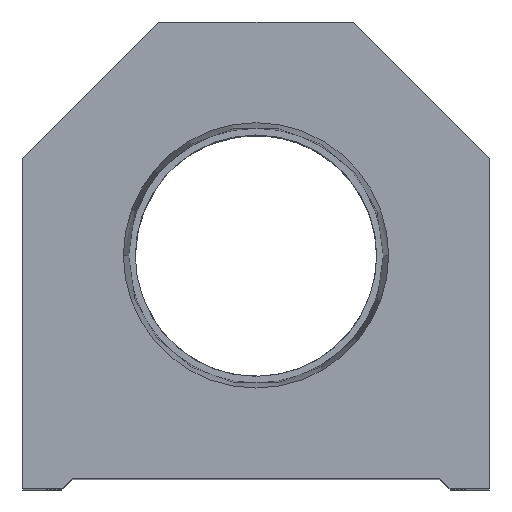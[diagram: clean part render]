
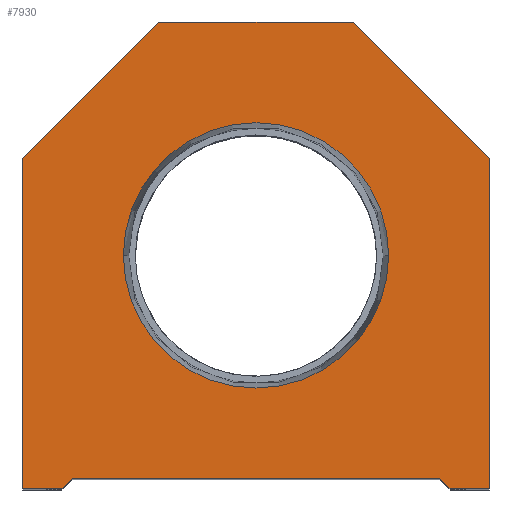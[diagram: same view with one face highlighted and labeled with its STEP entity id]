
A CAD part, top view. The second image highlights one B-rep face of the part: STEP entity #7930.
In plain terms, the highlighted planar face has unit normal (0, 0, 1).
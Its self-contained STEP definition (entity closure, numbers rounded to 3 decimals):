
#101 = CARTESIAN_POINT ( 'NONE',  ( 0., 22.25, 0. ) ) ;
#127 = DIRECTION ( 'NONE',  ( 1., 0., 0. ) ) ;
#203 = DIRECTION ( 'NONE',  ( -0.707, 0.707, 0. ) ) ;
#394 = ORIENTED_EDGE ( 'NONE', *, *, #9533, .T. ) ;
#576 = CARTESIAN_POINT ( 'NONE',  ( -18.5, 0., 0. ) ) ;
#939 = DIRECTION ( 'NONE',  ( 0., 0., 1. ) ) ;
#1085 = ORIENTED_EDGE ( 'NONE', *, *, #9996, .T. ) ;
#1151 = VECTOR ( 'NONE', #14155, 1000. ) ;
#1171 = EDGE_CURVE ( 'NONE', #3402, #10636, #2260, .T. ) ;
#1674 = VECTOR ( 'NONE', #203, 1000. ) ;
#1771 = VECTOR ( 'NONE', #5413, 1000. ) ;
#2260 = LINE ( 'NONE', #14379, #1151 ) ;
#2351 = ORIENTED_EDGE ( 'NONE', *, *, #5105, .T. ) ;
#2426 = VECTOR ( 'NONE', #127, 1000. ) ;
#2517 = VECTOR ( 'NONE', #15392, 1000. ) ;
#2557 = VERTEX_POINT ( 'NONE', #14681 ) ;
#2910 = VERTEX_POINT ( 'NONE', #9029 ) ;
#3076 = DIRECTION ( 'NONE',  ( 1., 0., 0. ) ) ;
#3129 = CARTESIAN_POINT ( 'NONE',  ( 0., 0., 0. ) ) ;
#3168 = VERTEX_POINT ( 'NONE', #4486 ) ;
#3214 = VECTOR ( 'NONE', #10050, 1000. ) ;
#3402 = VERTEX_POINT ( 'NONE', #10324 ) ;
#3659 = EDGE_CURVE ( 'NONE', #5734, #12841, #5925, .T. ) ;
#3679 = LINE ( 'NONE', #11997, #13496 ) ;
#3735 = ORIENTED_EDGE ( 'NONE', *, *, #11627, .T. ) ;
#3836 = EDGE_LOOP ( 'NONE', ( #11838, #14157 ) ) ;
#3948 = VERTEX_POINT ( 'NONE', #6751 ) ;
#4486 = CARTESIAN_POINT ( 'NONE',  ( 22.25, 31.5, 0. ) ) ;
#4878 = LINE ( 'NONE', #14230, #2426 ) ;
#4907 = AXIS2_PLACEMENT_3D ( 'NONE', #101, #13190, #8437 ) ;
#5105 = EDGE_CURVE ( 'NONE', #11622, #7547, #4878, .T. ) ;
#5178 = EDGE_CURVE ( 'NONE', #3168, #2910, #10887, .T. ) ;
#5235 = VECTOR ( 'NONE', #3076, 1000. ) ;
#5413 = DIRECTION ( 'NONE',  ( -0.707, -0.707, 0. ) ) ;
#5613 = CARTESIAN_POINT ( 'NONE',  ( 0., 22.25, 0. ) ) ;
#5697 = DIRECTION ( 'NONE',  ( 1., 0., 0. ) ) ;
#5734 = VERTEX_POINT ( 'NONE', #6489 ) ;
#5925 = CIRCLE ( 'NONE', #4907, 12.647 ) ;
#5989 = AXIS2_PLACEMENT_3D ( 'NONE', #3129, #939, #5697 ) ;
#6384 = CARTESIAN_POINT ( 'NONE',  ( -17.5, 1., 0. ) ) ;
#6489 = CARTESIAN_POINT ( 'NONE',  ( 12.647, 22.25, 0. ) ) ;
#6516 = AXIS2_PLACEMENT_3D ( 'NONE', #5613, #15116, #13848 ) ;
#6751 = CARTESIAN_POINT ( 'NONE',  ( -22.25, 31.5, 0. ) ) ;
#6798 = LINE ( 'NONE', #8979, #5235 ) ;
#6900 = EDGE_CURVE ( 'NONE', #10636, #2557, #11533, .T. ) ;
#7002 = FACE_BOUND ( 'NONE', #3836, .T. ) ;
#7304 = DIRECTION ( 'NONE',  ( 0., 1., 0. ) ) ;
#7452 = VERTEX_POINT ( 'NONE', #10964 ) ;
#7496 = ORIENTED_EDGE ( 'NONE', *, *, #11826, .T. ) ;
#7521 = ORIENTED_EDGE ( 'NONE', *, *, #9620, .T. ) ;
#7547 = VERTEX_POINT ( 'NONE', #576 ) ;
#7679 = VECTOR ( 'NONE', #10332, 1000. ) ;
#7702 = CARTESIAN_POINT ( 'NONE',  ( 17.5, 0., 0. ) ) ;
#7755 = VECTOR ( 'NONE', #13794, 1000. ) ;
#7930 = ADVANCED_FACE ( 'NONE', ( #7002, #11612 ), #11766, .T. ) ;
#7966 = CARTESIAN_POINT ( 'NONE',  ( -12.647, 22.25, 0. ) ) ;
#8097 = VERTEX_POINT ( 'NONE', #6384 ) ;
#8437 = DIRECTION ( 'NONE',  ( 1., 0., 0. ) ) ;
#8471 = EDGE_CURVE ( 'NONE', #3948, #11622, #11574, .T. ) ;
#8979 = CARTESIAN_POINT ( 'NONE',  ( -17.5, 1., 0. ) ) ;
#9029 = CARTESIAN_POINT ( 'NONE',  ( 9.25, 44.5, 0. ) ) ;
#9048 = CARTESIAN_POINT ( 'NONE',  ( -22.25, 0., 0. ) ) ;
#9291 = CARTESIAN_POINT ( 'NONE',  ( -9.25, 9.25, 0. ) ) ;
#9471 = ORIENTED_EDGE ( 'NONE', *, *, #6900, .T. ) ;
#9533 = EDGE_CURVE ( 'NONE', #7452, #3948, #14038, .T. ) ;
#9620 = EDGE_CURVE ( 'NONE', #8097, #3402, #6798, .T. ) ;
#9996 = EDGE_CURVE ( 'NONE', #7547, #8097, #12946, .T. ) ;
#10050 = DIRECTION ( 'NONE',  ( 1., 0., 0. ) ) ;
#10324 = CARTESIAN_POINT ( 'NONE',  ( 17.5, 1., 0. ) ) ;
#10332 = DIRECTION ( 'NONE',  ( 0., -1., 0. ) ) ;
#10628 = ORIENTED_EDGE ( 'NONE', *, *, #5178, .T. ) ;
#10636 = VERTEX_POINT ( 'NONE', #14270 ) ;
#10731 = ORIENTED_EDGE ( 'NONE', *, *, #8471, .T. ) ;
#10887 = LINE ( 'NONE', #11891, #1674 ) ;
#10964 = CARTESIAN_POINT ( 'NONE',  ( -9.25, 44.5, 0. ) ) ;
#11075 = EDGE_CURVE ( 'NONE', #12841, #5734, #13223, .T. ) ;
#11533 = LINE ( 'NONE', #7702, #3214 ) ;
#11574 = LINE ( 'NONE', #13979, #7679 ) ;
#11612 = FACE_OUTER_BOUND ( 'NONE', #15267, .T. ) ;
#11622 = VERTEX_POINT ( 'NONE', #9048 ) ;
#11627 = EDGE_CURVE ( 'NONE', #2910, #7452, #15132, .T. ) ;
#11766 = PLANE ( 'NONE',  #5989 ) ;
#11826 = EDGE_CURVE ( 'NONE', #2557, #3168, #3679, .T. ) ;
#11838 = ORIENTED_EDGE ( 'NONE', *, *, #3659, .F. ) ;
#11891 = CARTESIAN_POINT ( 'NONE',  ( 22.25, 31.5, 0. ) ) ;
#11997 = CARTESIAN_POINT ( 'NONE',  ( 22.25, 0., 0. ) ) ;
#12390 = CARTESIAN_POINT ( 'NONE',  ( 9.25, 44.5, 0. ) ) ;
#12841 = VERTEX_POINT ( 'NONE', #7966 ) ;
#12946 = LINE ( 'NONE', #9291, #2517 ) ;
#13190 = DIRECTION ( 'NONE',  ( 0., 0., 1. ) ) ;
#13223 = CIRCLE ( 'NONE', #6516, 12.647 ) ;
#13496 = VECTOR ( 'NONE', #7304, 1000. ) ;
#13794 = DIRECTION ( 'NONE',  ( -1., 0., 0. ) ) ;
#13848 = DIRECTION ( 'NONE',  ( 1., 0., 0. ) ) ;
#13979 = CARTESIAN_POINT ( 'NONE',  ( -22.25, 0., 0. ) ) ;
#14038 = LINE ( 'NONE', #14906, #1771 ) ;
#14155 = DIRECTION ( 'NONE',  ( 0.707, -0.707, 0. ) ) ;
#14157 = ORIENTED_EDGE ( 'NONE', *, *, #11075, .F. ) ;
#14230 = CARTESIAN_POINT ( 'NONE',  ( -17.5, 0., 0. ) ) ;
#14270 = CARTESIAN_POINT ( 'NONE',  ( 18.5, 0., 0. ) ) ;
#14379 = CARTESIAN_POINT ( 'NONE',  ( 9.25, 9.25, 0. ) ) ;
#14449 = ORIENTED_EDGE ( 'NONE', *, *, #1171, .T. ) ;
#14681 = CARTESIAN_POINT ( 'NONE',  ( 22.25, 0., 0. ) ) ;
#14906 = CARTESIAN_POINT ( 'NONE',  ( -22.25, 31.5, 0. ) ) ;
#15116 = DIRECTION ( 'NONE',  ( 0., 0., 1. ) ) ;
#15132 = LINE ( 'NONE', #12390, #7755 ) ;
#15267 = EDGE_LOOP ( 'NONE', ( #2351, #1085, #7521, #14449, #9471, #7496, #10628, #3735, #394, #10731 ) ) ;
#15392 = DIRECTION ( 'NONE',  ( 0.707, 0.707, 0. ) ) ;
